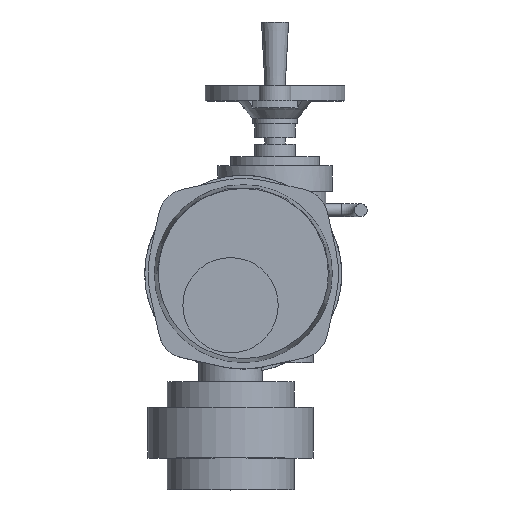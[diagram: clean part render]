
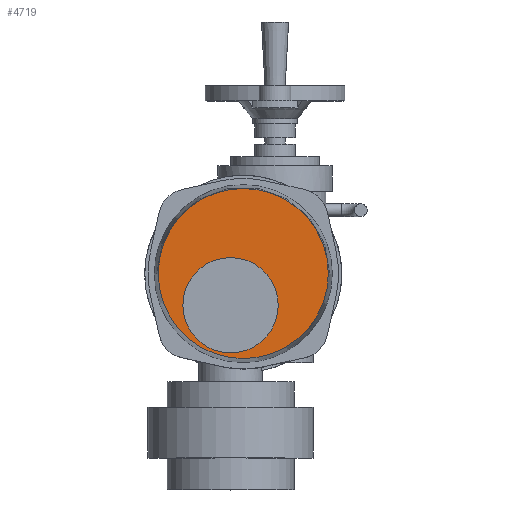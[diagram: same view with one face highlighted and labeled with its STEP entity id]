
A CAD part, top view. The second image highlights one B-rep face of the part: STEP entity #4719.
In plain terms, the highlighted planar face has unit normal (0, 0, 1).
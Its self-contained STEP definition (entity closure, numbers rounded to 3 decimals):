
#4719=ADVANCED_FACE('',(#10066,#10068),#10070,.T.);
#10066=FACE_BOUND('',#10067,.T.);
#10067=EDGE_LOOP('',(#13904));
#10068=FACE_BOUND('',#10069,.T.);
#10069=EDGE_LOOP('',(#13905));
#10070=PLANE('',#10071);
#10071=AXIS2_PLACEMENT_3D('',#10072,#10073,#10074);
#10072=CARTESIAN_POINT('',(15.,30.,372.));
#10073=DIRECTION('',(0.,0.,1.));
#10074=DIRECTION('',(-1.,0.,0.));
#13904=ORIENTED_EDGE('',*,*,#15834,.T.);
#13905=ORIENTED_EDGE('',*,*,#16616,.F.);
#15834=EDGE_CURVE('',#18328,#18328,#18329,.T.);
#16616=EDGE_CURVE('',#19498,#19498,#19499,.T.);
#18328=VERTEX_POINT('',#24168);
#18329=CIRCLE('',#24169,66.908);
#19498=VERTEX_POINT('',#27194);
#19499=CIRCLE('',#27195,37.5);
#24168=CARTESIAN_POINT('',(-51.908,30.,372.));
#24169=AXIS2_PLACEMENT_3D('',#24170,#24171,#24172);
#24170=CARTESIAN_POINT('',(15.,30.,372.));
#24171=DIRECTION('',(0.,0.,1.));
#24172=DIRECTION('',(-1.,0.,0.));
#27194=CARTESIAN_POINT('',(-32.5,5.,372.));
#27195=AXIS2_PLACEMENT_3D('',#27196,#27197,#27198);
#27196=CARTESIAN_POINT('',(5.,5.,372.));
#27197=DIRECTION('',(0.,0.,1.));
#27198=DIRECTION('',(-1.,0.,0.));
